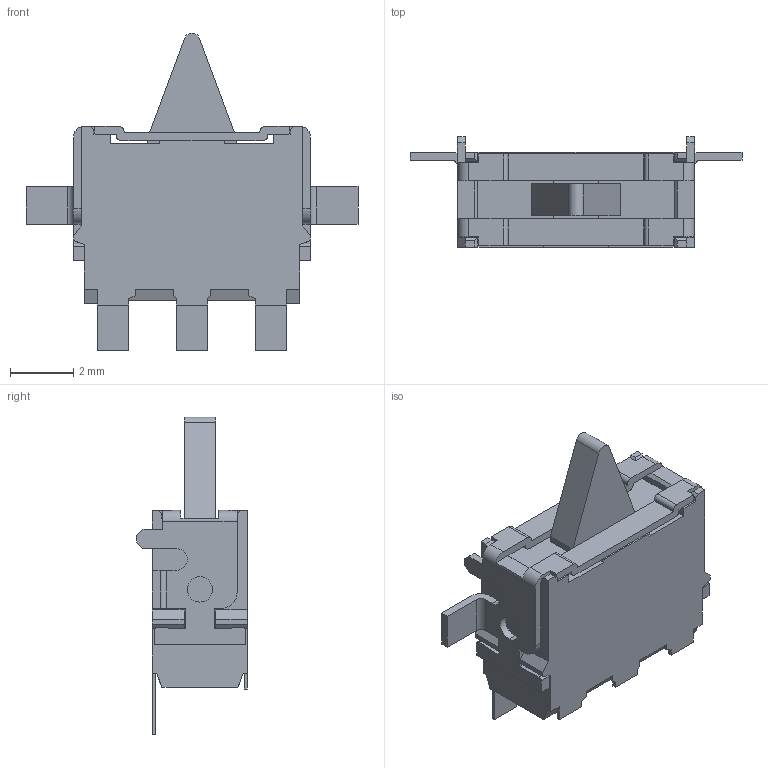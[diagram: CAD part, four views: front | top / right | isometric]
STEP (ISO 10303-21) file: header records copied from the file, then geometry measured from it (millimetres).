
FILE_DESCRIPTION (( 'STEP AP203' ), '1' );
FILE_NAME ('ese24cmh6t.STEP', '2014-02-18T09:06:09', ( '' ), ( '' ), 'SwSTEP 2.0', 'SolidWorks 2012', '' );
FILE_SCHEMA (( 'CONFIG_CONTROL_DESIGN' ));
Length unit declared in the file: millimetre
Products named in the file (1): ese24cmh6t
Bounding box: 10.5 x 3.5 x 10.05 mm (x, y, z)
Volume: 119.1 mm3; surface area: 226.7 mm2
Topology: 1 solids, 1 shells, 258 faces, 761 edges, 499 vertices
Faces by surface type: plane 225, cylinder 33
Entity records: 8550 total; most frequent: CARTESIAN_POINT 1561, ORIENTED_EDGE 1522, DIRECTION 1331, EDGE_CURVE 761, LINE 685, VECTOR 685, VERTEX_POINT 499, AXIS2_PLACEMENT_3D 323
